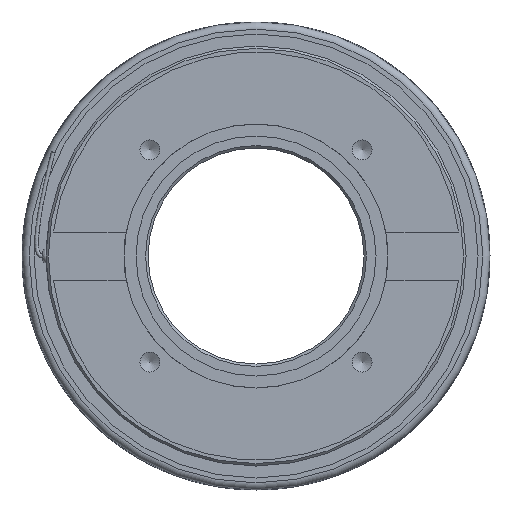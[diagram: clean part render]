
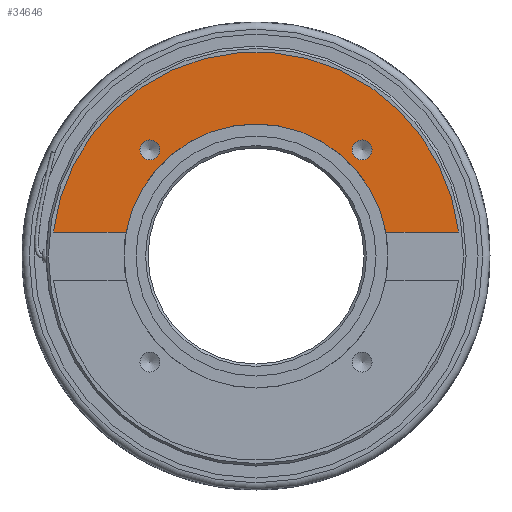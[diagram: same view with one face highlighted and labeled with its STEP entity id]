
A CAD part, left-side view. The second image highlights one B-rep face of the part: STEP entity #34646.
In plain terms, the highlighted planar face has unit normal (-1, 0, 0).
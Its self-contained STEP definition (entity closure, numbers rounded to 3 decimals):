
#1137=LINE('',#59882,#3167);
#1143=LINE('',#59894,#3173);
#3167=VECTOR('',#47097,30.326);
#3173=VECTOR('',#47105,30.326);
#6702=FACE_BOUND('',#9612,.T.);
#6703=FACE_BOUND('',#9613,.T.);
#7678=FACE_OUTER_BOUND('',#9611,.T.);
#9611=EDGE_LOOP('',(#26213,#26214,#26215,#26216));
#9612=EDGE_LOOP('',(#26217));
#9613=EDGE_LOOP('',(#26218));
#11155=CIRCLE('',#38239,85.);
#11158=CIRCLE('',#38243,55.);
#11161=CIRCLE('',#38248,4.188);
#11162=CIRCLE('',#38249,4.188);
#13472=VERTEX_POINT('',#59878);
#13474=VERTEX_POINT('',#59881);
#13477=VERTEX_POINT('',#59888);
#13479=VERTEX_POINT('',#59892);
#13492=VERTEX_POINT('',#59935);
#13493=VERTEX_POINT('',#59937);
#18032=EDGE_CURVE('',#13474,#13472,#1137,.T.);
#18038=EDGE_CURVE('',#13477,#13479,#1143,.T.);
#18053=EDGE_CURVE('',#13477,#13472,#11155,.T.);
#18056=EDGE_CURVE('',#13479,#13474,#11158,.T.);
#18059=EDGE_CURVE('',#13492,#13492,#11161,.T.);
#18060=EDGE_CURVE('',#13493,#13493,#11162,.T.);
#26213=ORIENTED_EDGE('',*,*,#18038,.T.);
#26214=ORIENTED_EDGE('',*,*,#18056,.T.);
#26215=ORIENTED_EDGE('',*,*,#18032,.T.);
#26216=ORIENTED_EDGE('',*,*,#18053,.F.);
#26217=ORIENTED_EDGE('',*,*,#18059,.T.);
#26218=ORIENTED_EDGE('',*,*,#18060,.T.);
#32807=PLANE('',#38247);
#34646=ADVANCED_FACE('',(#7678,#6702,#6703),#32807,.T.);
#38239=AXIS2_PLACEMENT_3D('',#59923,#47136,#47137);
#38243=AXIS2_PLACEMENT_3D('',#59928,#47144,#47145);
#38247=AXIS2_PLACEMENT_3D('',#59934,#47152,#47153);
#38248=AXIS2_PLACEMENT_3D('',#59936,#47154,#47155);
#38249=AXIS2_PLACEMENT_3D('',#59938,#47156,#47157);
#47097=DIRECTION('',(0.,-1.,0.));
#47105=DIRECTION('',(0.,-1.,0.));
#47136=DIRECTION('center_axis',(1.,0.,0.));
#47137=DIRECTION('ref_axis',(0.,0.,-1.));
#47144=DIRECTION('center_axis',(1.,0.,0.));
#47145=DIRECTION('ref_axis',(0.,0.,-1.));
#47152=DIRECTION('center_axis',(-1.,0.,0.));
#47153=DIRECTION('ref_axis',(0.,0.,1.));
#47154=DIRECTION('center_axis',(1.,0.,0.));
#47155=DIRECTION('ref_axis',(0.,0.,1.));
#47156=DIRECTION('center_axis',(1.,0.,0.));
#47157=DIRECTION('ref_axis',(0.,0.,1.));
#59878=CARTESIAN_POINT('',(-19.25,-84.41,10.));
#59881=CARTESIAN_POINT('',(-19.25,-54.083,10.));
#59882=CARTESIAN_POINT('',(-19.25,93.72,10.));
#59888=CARTESIAN_POINT('',(-19.25,84.41,10.));
#59892=CARTESIAN_POINT('',(-19.25,54.083,10.));
#59894=CARTESIAN_POINT('',(-19.25,93.72,10.));
#59923=CARTESIAN_POINT('Origin',(-19.25,0.,0.));
#59928=CARTESIAN_POINT('Origin',(-19.25,0.,0.));
#59934=CARTESIAN_POINT('Origin',(-19.25,85.,0.));
#59935=CARTESIAN_POINT('',(-19.25,-44.194,48.382));
#59936=CARTESIAN_POINT('Origin',(-19.25,-44.194,44.194));
#59937=CARTESIAN_POINT('',(-19.25,44.194,48.382));
#59938=CARTESIAN_POINT('Origin',(-19.25,44.194,44.194));
